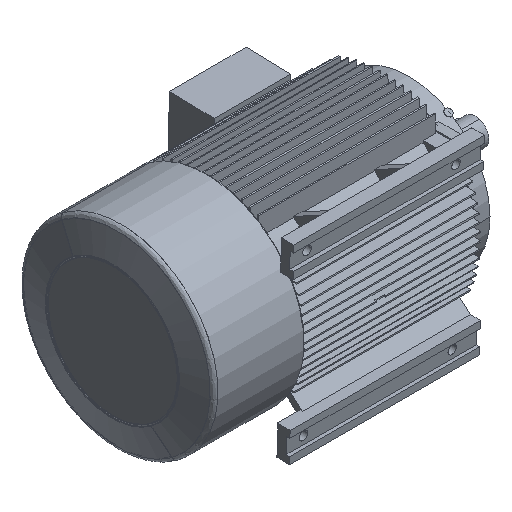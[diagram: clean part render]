
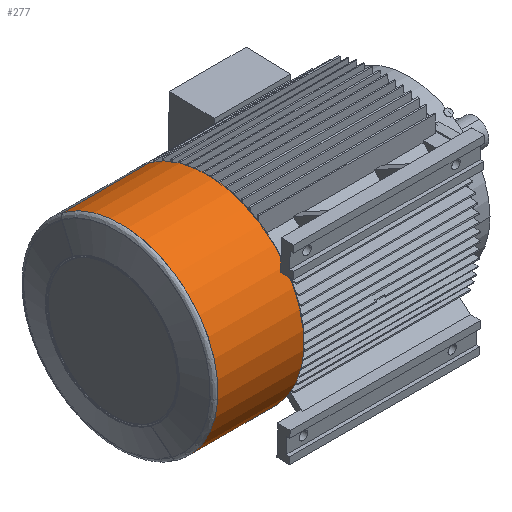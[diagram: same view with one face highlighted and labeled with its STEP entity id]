
A CAD part, isometric view. The second image highlights one B-rep face of the part: STEP entity #277.
In plain terms, the highlighted cylindrical face has radius 273.5 mm (diameter 547 mm), a partial arc.
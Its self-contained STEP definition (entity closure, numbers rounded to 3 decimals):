
#277 = ADVANCED_FACE ( 'NONE', ( #7005 ), #7020, .T. ) ;
#2756 = EDGE_LOOP ( 'NONE', ( #7867, #7843, #7836, #7853 ) ) ;
#3591 = AXIS2_PLACEMENT_3D ( 'NONE', #15145, #15069, #15071 ) ;
#7005 = FACE_OUTER_BOUND ( 'NONE', #2756, .T. ) ;
#7020 = CYLINDRICAL_SURFACE ( 'NONE', #3591, 273.5 ) ;
#7836 = ORIENTED_EDGE ( 'NONE', *, *, #11795, .T. ) ;
#7843 = ORIENTED_EDGE ( 'NONE', *, *, #11739, .T. ) ;
#7853 = ORIENTED_EDGE ( 'NONE', *, *, #11611, .F. ) ;
#7867 = ORIENTED_EDGE ( 'NONE', *, *, #11688, .T. ) ;
#11611 = EDGE_CURVE ( 'NONE', #17855, #17830, #24145, .T. ) ;
#11688 = EDGE_CURVE ( 'NONE', #17855, #17802, #23082, .T. ) ;
#11739 = EDGE_CURVE ( 'NONE', #17802, #17837, #23107, .T. ) ;
#11795 = EDGE_CURVE ( 'NONE', #17837, #17830, #23161, .T. ) ;
#15069 = DIRECTION ( 'NONE',  ( -1., 0., 0. ) ) ;
#15071 = DIRECTION ( 'NONE',  ( 0., 0., 1. ) ) ;
#15145 = CARTESIAN_POINT ( 'NONE',  ( -98.835, 0., 0. ) ) ;
#17802 = VERTEX_POINT ( 'NONE', #27014 ) ;
#17830 = VERTEX_POINT ( 'NONE', #27073 ) ;
#17837 = VERTEX_POINT ( 'NONE', #27111 ) ;
#17855 = VERTEX_POINT ( 'NONE', #27061 ) ;
#19571 = AXIS2_PLACEMENT_3D ( 'NONE', #25642, #25671, #25661 ) ;
#19676 = AXIS2_PLACEMENT_3D ( 'NONE', #22086, #22079, #22087 ) ;
#22079 = DIRECTION ( 'NONE',  ( -1., 0., 0. ) ) ;
#22086 = CARTESIAN_POINT ( 'NONE',  ( 242.777, 0., 0. ) ) ;
#22087 = DIRECTION ( 'NONE',  ( 0., 0., 1. ) ) ;
#22114 = CARTESIAN_POINT ( 'NONE',  ( -98.835, 0., -273.5 ) ) ;
#22126 = DIRECTION ( 'NONE',  ( -1., 0., 0. ) ) ;
#23010 = CARTESIAN_POINT ( 'NONE',  ( -98.835, 0., 273.5 ) ) ;
#23039 = DIRECTION ( 'NONE',  ( -1., 0., 0. ) ) ;
#23082 = CIRCLE ( 'NONE', #19676, 273.5 ) ;
#23107 = LINE ( 'NONE', #22114, #23142 ) ;
#23142 = VECTOR ( 'NONE', #22126, 1000. ) ;
#23161 = CIRCLE ( 'NONE', #19571, 273.5 ) ;
#24126 = VECTOR ( 'NONE', #23039, 1000. ) ;
#24145 = LINE ( 'NONE', #23010, #24126 ) ;
#25642 = CARTESIAN_POINT ( 'NONE',  ( 0., 0., 0. ) ) ;
#25661 = DIRECTION ( 'NONE',  ( 0., 0., 1. ) ) ;
#25671 = DIRECTION ( 'NONE',  ( 1., 0., 0. ) ) ;
#27014 = CARTESIAN_POINT ( 'NONE',  ( 242.777, 0., -273.5 ) ) ;
#27061 = CARTESIAN_POINT ( 'NONE',  ( 242.777, 0., 273.5 ) ) ;
#27073 = CARTESIAN_POINT ( 'NONE',  ( 0., 0., 273.5 ) ) ;
#27111 = CARTESIAN_POINT ( 'NONE',  ( 0., 0., -273.5 ) ) ;
